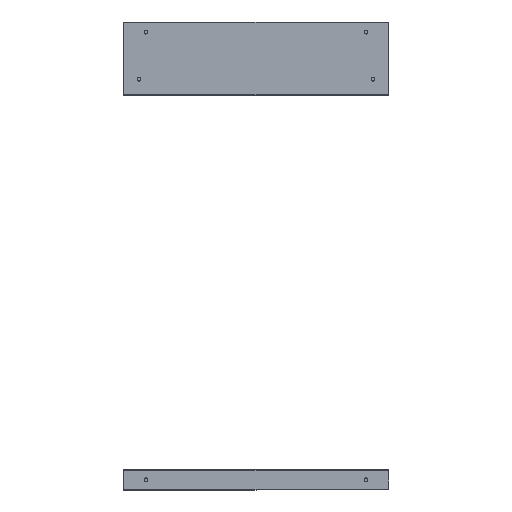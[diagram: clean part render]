
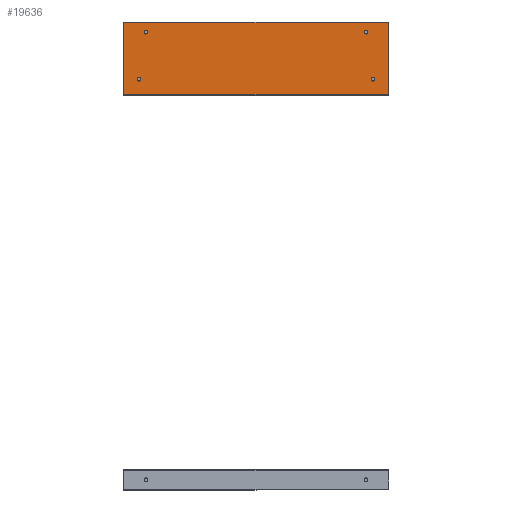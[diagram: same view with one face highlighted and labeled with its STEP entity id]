
A CAD part, top view. The second image highlights one B-rep face of the part: STEP entity #19636.
In plain terms, the highlighted planar face has unit normal (0, 0, 1).
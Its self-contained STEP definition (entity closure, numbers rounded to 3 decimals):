
#12366=CARTESIAN_POINT(' ',(494.9,-135.4,0.));
#12367=VERTEX_POINT(' ',#12366);
#13596=CARTESIAN_POINT(' ',(-494.9,-135.4,0.));
#13597=VERTEX_POINT(' ',#13596);
#14526=CARTESIAN_POINT(' ',(-494.9,-135.4,0.));
#14531=DIRECTION(' ',(1.,0.,0.));
#14536=VECTOR(' ',#14531,1.);
#14541=LINE('',#14526,#14536);
#14546=EDGE_CURVE(' ',#13597,#12367,#14541,.T.);
#18201=CARTESIAN_POINT(' ',(-494.9,135.4,0.));
#18202=VERTEX_POINT(' ',#18201);
#19086=CARTESIAN_POINT(' ',(494.9,135.4,0.));
#19087=VERTEX_POINT(' ',#19086);
#19506=DIRECTION(' ',(-0.,0.,1.));
#19511=CARTESIAN_POINT(' ',(-494.9,-135.4,0.));
#19516=DIRECTION(' ',(1.,0.,0.));
#19521=AXIS2_PLACEMENT_3D(' ',#19511,#19506,#19516);
#19526=PLANE('NONE',#19521);
#19531=CARTESIAN_POINT(' ',(-494.9,135.4,0.));
#19536=DIRECTION(' ',(0.,-1.,0.));
#19541=VECTOR(' ',#19536,1.);
#19546=LINE('',#19531,#19541);
#19551=EDGE_CURVE(' ',#18202,#13597,#19546,.T.);
#19556=ORIENTED_EDGE(' ',*,*,#19551,.T.);
#19561=ORIENTED_EDGE(' ',*,*,#14546,.T.);
#19566=CARTESIAN_POINT(' ',(494.9,-135.4,0.));
#19571=DIRECTION(' ',(0.,1.,0.));
#19576=VECTOR(' ',#19571,1.);
#19581=LINE('',#19566,#19576);
#19586=EDGE_CURVE(' ',#12367,#19087,#19581,.T.);
#19591=ORIENTED_EDGE(' ',*,*,#19586,.T.);
#19596=CARTESIAN_POINT(' ',(494.9,135.4,0.));
#19601=DIRECTION(' ',(-1.,0.,0.));
#19606=VECTOR(' ',#19601,1.);
#19611=LINE('',#19596,#19606);
#19616=EDGE_CURVE(' ',#19087,#18202,#19611,.T.);
#19621=ORIENTED_EDGE(' ',*,*,#19616,.T.);
#19626=EDGE_LOOP(' ',(#19556,#19561,#19591,#19621));
#19631=FACE_OUTER_BOUND(' ',#19626,.T.);
#19636=ADVANCED_FACE('NONE',(#19631),#19526,.T.);
